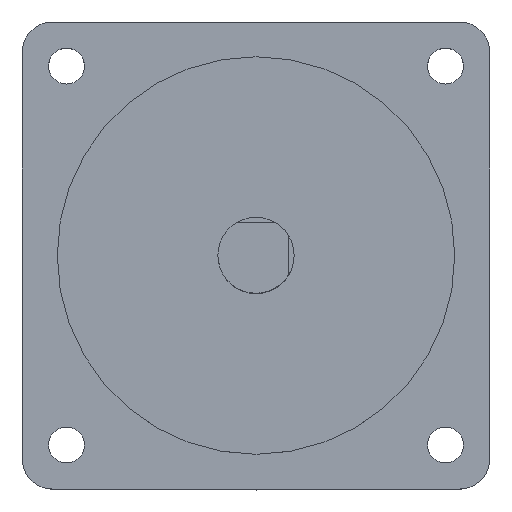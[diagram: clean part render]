
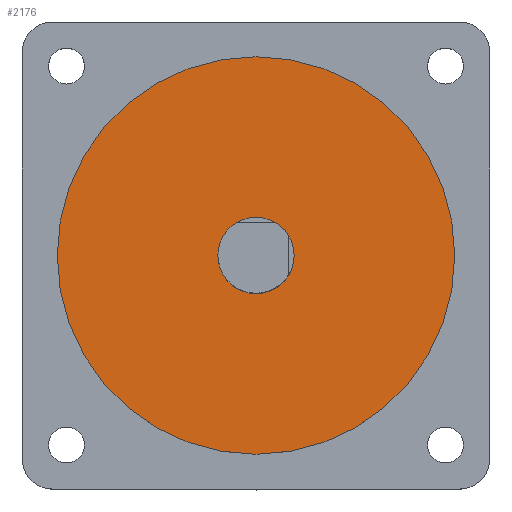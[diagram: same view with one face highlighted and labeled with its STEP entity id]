
A CAD part, top view. The second image highlights one B-rep face of the part: STEP entity #2176.
In plain terms, the highlighted planar face has unit normal (0, 0, 1).
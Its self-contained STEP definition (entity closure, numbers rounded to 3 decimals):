
#61 = EDGE_CURVE ( 'NONE', #978, #687, #429, .T. ) ;
#69 = CARTESIAN_POINT ( 'NONE',  ( -36.513, 0., 2. ) ) ;
#350 = DIRECTION ( 'NONE',  ( 0., 0., 1. ) ) ;
#371 = EDGE_LOOP ( 'NONE', ( #1886, #2254 ) ) ;
#429 = CIRCLE ( 'NONE', #1120, 7. ) ;
#430 = ORIENTED_EDGE ( 'NONE', *, *, #889, .T. ) ;
#450 = CIRCLE ( 'NONE', #1647, 36.513 ) ;
#511 = CIRCLE ( 'NONE', #3088, 7. ) ;
#687 = VERTEX_POINT ( 'NONE', #1881 ) ;
#889 = EDGE_CURVE ( 'NONE', #2793, #3081, #450, .T. ) ;
#967 = CARTESIAN_POINT ( 'NONE',  ( 0., 0., 2. ) ) ;
#978 = VERTEX_POINT ( 'NONE', #3582 ) ;
#1120 = AXIS2_PLACEMENT_3D ( 'NONE', #3070, #2842, #2828 ) ;
#1122 = AXIS2_PLACEMENT_3D ( 'NONE', #967, #3084, #1265 ) ;
#1257 = CARTESIAN_POINT ( 'NONE',  ( 0., 0., 2. ) ) ;
#1265 = DIRECTION ( 'NONE',  ( 1., 0., 0. ) ) ;
#1338 = FACE_BOUND ( 'NONE', #371, .T. ) ;
#1513 = CARTESIAN_POINT ( 'NONE',  ( 36.513, 0., 2. ) ) ;
#1562 = DIRECTION ( 'NONE',  ( 0., 0., -1. ) ) ;
#1647 = AXIS2_PLACEMENT_3D ( 'NONE', #3745, #2544, #2236 ) ;
#1881 = CARTESIAN_POINT ( 'NONE',  ( -7., 0., 2. ) ) ;
#1886 = ORIENTED_EDGE ( 'NONE', *, *, #2164, .T. ) ;
#1933 = EDGE_CURVE ( 'NONE', #3081, #2793, #3614, .T. ) ;
#2001 = EDGE_LOOP ( 'NONE', ( #430, #2721 ) ) ;
#2164 = EDGE_CURVE ( 'NONE', #687, #978, #511, .T. ) ;
#2172 = PLANE ( 'NONE',  #3691 ) ;
#2176 = ADVANCED_FACE ( 'NONE', ( #3563, #1338 ), #2172, .T. ) ;
#2236 = DIRECTION ( 'NONE',  ( 1., 0., 0. ) ) ;
#2254 = ORIENTED_EDGE ( 'NONE', *, *, #61, .T. ) ;
#2477 = DIRECTION ( 'NONE',  ( 1., 0., 0. ) ) ;
#2544 = DIRECTION ( 'NONE',  ( 0., 0., 1. ) ) ;
#2721 = ORIENTED_EDGE ( 'NONE', *, *, #1933, .T. ) ;
#2793 = VERTEX_POINT ( 'NONE', #69 ) ;
#2828 = DIRECTION ( 'NONE',  ( 1., 0., 0. ) ) ;
#2842 = DIRECTION ( 'NONE',  ( 0., 0., -1. ) ) ;
#3070 = CARTESIAN_POINT ( 'NONE',  ( 0., 0., 2. ) ) ;
#3081 = VERTEX_POINT ( 'NONE', #1513 ) ;
#3084 = DIRECTION ( 'NONE',  ( 0., 0., 1. ) ) ;
#3088 = AXIS2_PLACEMENT_3D ( 'NONE', #3386, #1562, #3685 ) ;
#3386 = CARTESIAN_POINT ( 'NONE',  ( 0., 0., 2. ) ) ;
#3563 = FACE_OUTER_BOUND ( 'NONE', #2001, .T. ) ;
#3582 = CARTESIAN_POINT ( 'NONE',  ( 7., 0., 2. ) ) ;
#3614 = CIRCLE ( 'NONE', #1122, 36.513 ) ;
#3685 = DIRECTION ( 'NONE',  ( 1., 0., 0. ) ) ;
#3691 = AXIS2_PLACEMENT_3D ( 'NONE', #1257, #350, #2477 ) ;
#3745 = CARTESIAN_POINT ( 'NONE',  ( 0., 0., 2. ) ) ;
